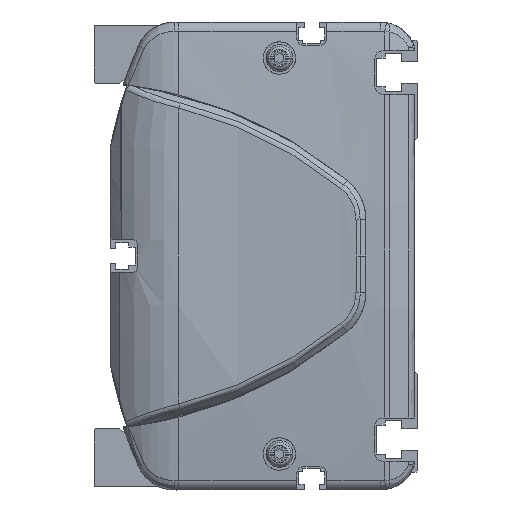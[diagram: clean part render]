
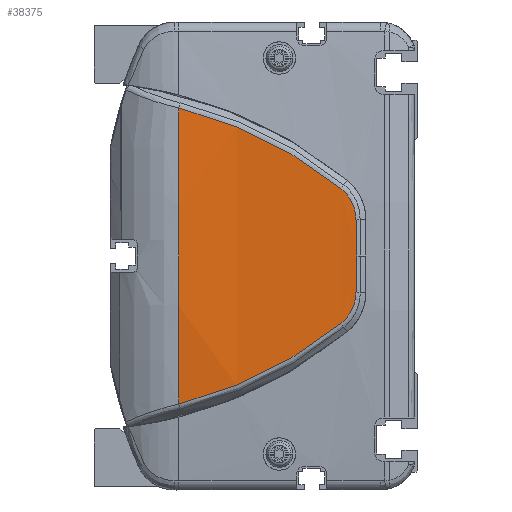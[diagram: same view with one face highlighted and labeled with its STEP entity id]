
A CAD part, left-side view. The second image highlights one B-rep face of the part: STEP entity #38375.
In plain terms, the highlighted cylindrical face has radius 500 mm (diameter 1000 mm), a partial arc.
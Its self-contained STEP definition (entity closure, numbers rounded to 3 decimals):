
#34629=CARTESIAN_POINT('',(486.,66.362,0.));
#34630=DIRECTION('',(0.,-1.,0.));
#34631=DIRECTION('',(-0.997,0.,0.082));
#34632=AXIS2_PLACEMENT_3D('',#34629,#34630,#34631);
#35511=CARTESIAN_POINT('',(-13.648,21.313,
-18.759));
#35512=CARTESIAN_POINT('',(-13.449,27.904,
-24.058));
#35513=CARTESIAN_POINT('',(-12.934,42.195,
-33.27));
#35514=CARTESIAN_POINT('',(-12.471,58.156,
-39.127));
#35515=CARTESIAN_POINT('',(-12.306,66.362,
-41.121));
#35517=CARTESIAN_POINT('',(-12.306,66.362,
41.121));
#35518=CARTESIAN_POINT('',(-12.471,58.156,
39.127));
#35519=CARTESIAN_POINT('',(-12.934,42.195,
33.27));
#35520=CARTESIAN_POINT('',(-13.449,27.904,
24.058));
#35521=CARTESIAN_POINT('',(-13.648,21.313,
18.759));
#35523=CARTESIAN_POINT('',(-13.648,21.313,
18.759));
#35524=CARTESIAN_POINT('',(-13.686,20.035,
17.736));
#35525=CARTESIAN_POINT('',(-13.779,17.936,
15.107));
#35526=CARTESIAN_POINT('',(-13.863,17.152,
11.827));
#35527=CARTESIAN_POINT('',(-13.896,17.124,
10.178));
#35529=CARTESIAN_POINT('',(-13.896,17.124,
10.178));
#35530=CARTESIAN_POINT('',(-13.92,17.107,
9.026));
#35531=CARTESIAN_POINT('',(-13.959,17.067,
6.736));
#35532=CARTESIAN_POINT('',(-13.993,16.98,
3.341));
#35533=CARTESIAN_POINT('',(-14.,16.898,
1.109));
#35534=CARTESIAN_POINT('',(-14.,16.849,
0.));
#35536=CARTESIAN_POINT('',(-14.,16.849,
0.));
#35537=CARTESIAN_POINT('',(-14.,16.898,
-1.109));
#35538=CARTESIAN_POINT('',(-13.993,16.98,
-3.342));
#35539=CARTESIAN_POINT('',(-13.959,17.067,
-6.735));
#35540=CARTESIAN_POINT('',(-13.92,17.107,
-9.028));
#35541=CARTESIAN_POINT('',(-13.896,17.124,
-10.18));
#35543=CARTESIAN_POINT('',(-13.896,17.124,
-10.18));
#35544=CARTESIAN_POINT('',(-13.863,17.152,
-11.828));
#35545=CARTESIAN_POINT('',(-13.779,17.937,
-15.109));
#35546=CARTESIAN_POINT('',(-13.686,20.035,
-17.736));
#35547=CARTESIAN_POINT('',(-13.648,21.313,
-18.759));
#36197=VERTEX_POINT('',#35511);
#36198=VERTEX_POINT('',#35515);
#36199=CARTESIAN_POINT('',(-12.306,66.362,
41.121));
#36200=VERTEX_POINT('',#36199);
#36201=VERTEX_POINT('',#35521);
#36202=VERTEX_POINT('',#35527);
#36203=VERTEX_POINT('',#35534);
#36204=VERTEX_POINT('',#35541);
#38356=CARTESIAN_POINT('',(486.,8.006,0.));
#38357=DIRECTION('',(0.,1.,0.));
#38358=DIRECTION('',(1.,0.,0.));
#38359=AXIS2_PLACEMENT_3D('',#38356,#38357,#38358);
#38360=CYLINDRICAL_SURFACE('',#38359,500.);
#38362=ORIENTED_EDGE('',*,*,#38361,.T.);
#38363=ORIENTED_EDGE('',*,*,#36999,.F.);
#38365=ORIENTED_EDGE('',*,*,#38364,.T.);
#38367=ORIENTED_EDGE('',*,*,#38366,.T.);
#38369=ORIENTED_EDGE('',*,*,#38368,.T.);
#38371=ORIENTED_EDGE('',*,*,#38370,.T.);
#38372=ORIENTED_EDGE('',*,*,#38346,.T.);
#38373=EDGE_LOOP('',(#38362,#38363,#38365,#38367,#38369,#38371,#38372));
#38374=FACE_OUTER_BOUND('',#38373,.F.);
#38375=ADVANCED_FACE('',(#38374),#38360,.T.);
#34633=CIRCLE('',#34632,500.);
#35516=B_SPLINE_CURVE_WITH_KNOTS('',3,(#35511,#35512,#35513,#35514,#35515),
.UNSPECIFIED.,.F.,.F.,(4,1,4),(0.,0.5,1.),.UNSPECIFIED.);
#35522=B_SPLINE_CURVE_WITH_KNOTS('',3,(#35517,#35518,#35519,#35520,#35521),
.UNSPECIFIED.,.F.,.F.,(4,1,4),(0.,0.5,1.),.UNSPECIFIED.);
#35528=B_SPLINE_CURVE_WITH_KNOTS('',3,(#35523,#35524,#35525,#35526,#35527),
.UNSPECIFIED.,.F.,.F.,(4,1,4),(0.,0.5,1.),.UNSPECIFIED.);
#35535=B_SPLINE_CURVE_WITH_KNOTS('',3,(#35529,#35530,#35531,#35532,#35533,
#35534),.UNSPECIFIED.,.F.,.F.,(4,1,1,4),(0.,0.333,
0.667,1.),.UNSPECIFIED.);
#35542=B_SPLINE_CURVE_WITH_KNOTS('',3,(#35536,#35537,#35538,#35539,#35540,
#35541),.UNSPECIFIED.,.F.,.F.,(4,1,1,4),(0.,0.333,
0.667,1.),.UNSPECIFIED.);
#35548=B_SPLINE_CURVE_WITH_KNOTS('',3,(#35543,#35544,#35545,#35546,#35547),
.UNSPECIFIED.,.F.,.F.,(4,1,4),(0.,0.5,1.),.UNSPECIFIED.);
#36999=EDGE_CURVE('',#36200,#36198,#34633,.T.);
#38346=EDGE_CURVE('',#36204,#36197,#35548,.T.);
#38361=EDGE_CURVE('',#36197,#36198,#35516,.T.);
#38364=EDGE_CURVE('',#36200,#36201,#35522,.T.);
#38366=EDGE_CURVE('',#36201,#36202,#35528,.T.);
#38368=EDGE_CURVE('',#36202,#36203,#35535,.T.);
#38370=EDGE_CURVE('',#36203,#36204,#35542,.T.);
